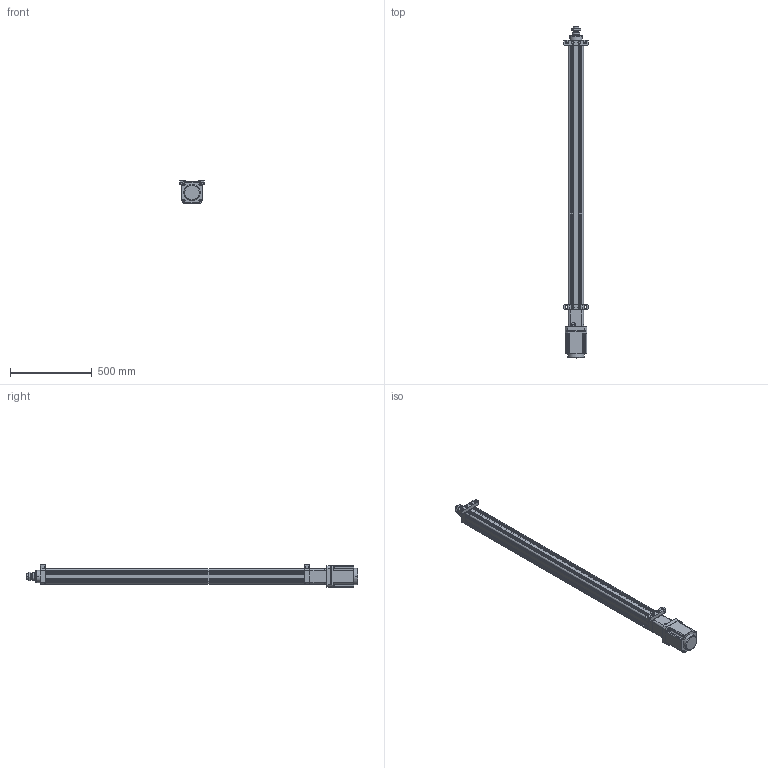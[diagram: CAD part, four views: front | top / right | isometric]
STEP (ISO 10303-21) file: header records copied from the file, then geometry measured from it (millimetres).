
FILE_DESCRIPTION((''),'2;1');
FILE_NAME('HE80-D-P_ASM','2020-04-24T',('ASUS20200'),(''),'CREO PARAMETRIC BY PTC INC, 2014190','CREO PARAMETRIC BY PTC INC, 2014190','');
FILE_SCHEMA(('CONFIG_CONTROL_DESIGN'));
Length unit declared in the file: millimetre
Products named in the file (26): HE80-D-P-001-X1; HE80-D-P-002-X1; HE80-D-P-003-X1; 30304J; YZ-M6X1; SLM-01; JDB506030; HE80-100-D-P-X1_ASM; HE80-D-009-X1; HE80-D-010-X1-130N; M10X110; SKT-20; M8X20; 130ST-M10010; JX6X6X40; TD-8; M8X40; HE80-D-P-005-X1; HE80-D-P-004-X1; HE80-D-P-008-X1; LGLM-M10-25; HE80-P-015-X1; HE80-P-016-X1; TD-10; M10X35; HE80-D-P_ASM
Assembly tree (48 placements, depth 3):
  HE80-D-P_ASM
    HE80-100-D-P-X1_ASM
      HE80-D-P-001-X1
      HE80-D-P-002-X1
      HE80-D-P-003-X1
      30304J  x2
      YZ-M6X1
      SLM-01
      JDB506030
    HE80-D-009-X1
    HE80-D-010-X1-130N
    M10X110  x4
    SKT-20  x2
    M8X20  x4
    130ST-M10010
    JX6X6X40
    TD-8  x4
    M8X40  x4
    HE80-D-P-005-X1
    HE80-D-P-004-X1
    HE80-D-P-008-X1
    LGLM-M10-25  x4
    HE80-P-015-X1
    HE80-P-016-X1
    TD-10  x4
    M10X35  x4
Bounding box: 150 x 2036 x 136.51 mm (x, y, z)
Volume: 7985339.3 mm3; surface area: 2317640.2 mm2
Topology: 47 solids, 74 shells, 1959 faces, 4536 edges, 2780 vertices
Faces by surface type: plane 737, cylinder 544, cone 518, torus 126, sphere 30, bspline 4
Entity records: 43788 total; most frequent: CARTESIAN_POINT 8466, DIRECTION 7815, ORIENTED_EDGE 6742, EDGE_CURVE 3426, AXIS2_PLACEMENT_3D 3002, VERTEX_POINT 2098, VECTOR 1811, LINE 1811
